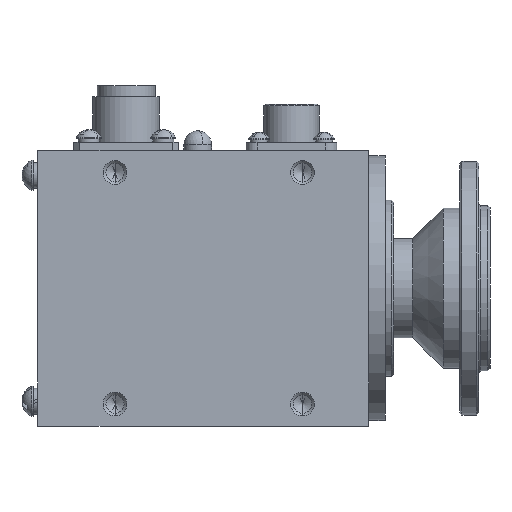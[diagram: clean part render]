
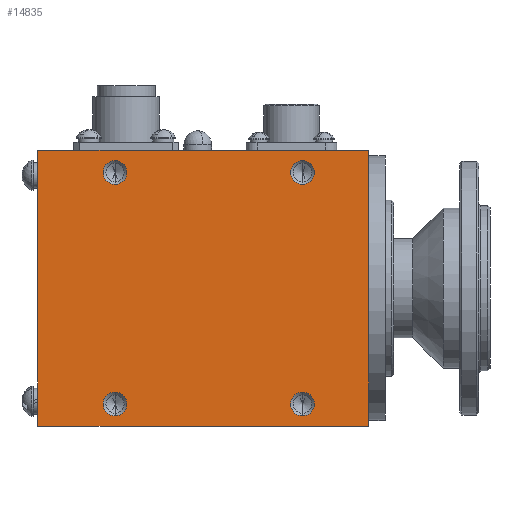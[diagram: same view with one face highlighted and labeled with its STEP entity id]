
A CAD part, front view. The second image highlights one B-rep face of the part: STEP entity #14835.
In plain terms, the highlighted planar face has unit normal (0, -1, 0).
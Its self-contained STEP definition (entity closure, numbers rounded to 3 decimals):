
#130 = AXIS2_PLACEMENT_3D ( 'NONE', #15915, #7919, #10636 ) ;
#203 = CARTESIAN_POINT ( 'NONE',  ( -30., 0., 25. ) ) ;
#305 = DIRECTION ( 'NONE',  ( 0., 0., -1. ) ) ;
#350 = DIRECTION ( 'NONE',  ( 0., -1., 0. ) ) ;
#357 = ORIENTED_EDGE ( 'NONE', *, *, #8063, .F. ) ;
#424 = EDGE_CURVE ( 'NONE', #12074, #891, #3516, .T. ) ;
#455 = EDGE_CURVE ( 'NONE', #13452, #13068, #10792, .T. ) ;
#480 = DIRECTION ( 'NONE',  ( 0., 0., -1. ) ) ;
#631 = AXIS2_PLACEMENT_3D ( 'NONE', #14114, #3398, #8851 ) ;
#771 = LINE ( 'NONE', #14200, #11973 ) ;
#788 = DIRECTION ( 'NONE',  ( 0., 0., 1. ) ) ;
#891 = VERTEX_POINT ( 'NONE', #15097 ) ;
#926 = DIRECTION ( 'NONE',  ( 0., -1., 0. ) ) ;
#1252 = ORIENTED_EDGE ( 'NONE', *, *, #6999, .F. ) ;
#1285 = EDGE_CURVE ( 'NONE', #891, #12074, #16444, .T. ) ;
#1371 = EDGE_LOOP ( 'NONE', ( #6468, #10689 ) ) ;
#1563 = CARTESIAN_POINT ( 'NONE',  ( 30., 0., 25. ) ) ;
#2066 = EDGE_LOOP ( 'NONE', ( #15664, #7316 ) ) ;
#2223 = FACE_OUTER_BOUND ( 'NONE', #5368, .T. ) ;
#2308 = FACE_BOUND ( 'NONE', #1371, .T. ) ;
#2528 = EDGE_CURVE ( 'NONE', #11532, #14533, #12237, .T. ) ;
#2873 = ORIENTED_EDGE ( 'NONE', *, *, #14352, .F. ) ;
#2932 = CARTESIAN_POINT ( 'NONE',  ( 30., 0., 25. ) ) ;
#2970 = AXIS2_PLACEMENT_3D ( 'NONE', #8132, #5829, #480 ) ;
#3168 = AXIS2_PLACEMENT_3D ( 'NONE', #9088, #11777, #13350 ) ;
#3230 = LINE ( 'NONE', #16850, #15550 ) ;
#3275 = AXIS2_PLACEMENT_3D ( 'NONE', #13522, #8265, #12382 ) ;
#3366 = VERTEX_POINT ( 'NONE', #11391 ) ;
#3398 = DIRECTION ( 'NONE',  ( 0., -1., 0. ) ) ;
#3516 = CIRCLE ( 'NONE', #130, 2.15 ) ;
#3728 = FACE_BOUND ( 'NONE', #11824, .T. ) ;
#3756 = CARTESIAN_POINT ( 'NONE',  ( 18., 0., -21. ) ) ;
#3792 = ORIENTED_EDGE ( 'NONE', *, *, #14085, .F. ) ;
#3889 = CARTESIAN_POINT ( 'NONE',  ( 0., 0., 0. ) ) ;
#3995 = LINE ( 'NONE', #203, #17075 ) ;
#4213 = CARTESIAN_POINT ( 'NONE',  ( -16., 0., -21. ) ) ;
#4796 = CARTESIAN_POINT ( 'NONE',  ( -16., 0., -23.15 ) ) ;
#5093 = EDGE_CURVE ( 'NONE', #12544, #11532, #3995, .T. ) ;
#5226 = CARTESIAN_POINT ( 'NONE',  ( 30., 0., -25. ) ) ;
#5368 = EDGE_LOOP ( 'NONE', ( #14390, #5999, #9305, #2873 ) ) ;
#5560 = DIRECTION ( 'NONE',  ( 1., 0., 0. ) ) ;
#5829 = DIRECTION ( 'NONE',  ( 0., -1., 0. ) ) ;
#5849 = DIRECTION ( 'NONE',  ( -1., 0., 0. ) ) ;
#5937 = CARTESIAN_POINT ( 'NONE',  ( -16., 0., 18.85 ) ) ;
#5999 = ORIENTED_EDGE ( 'NONE', *, *, #5093, .F. ) ;
#6221 = CIRCLE ( 'NONE', #631, 2.15 ) ;
#6269 = DIRECTION ( 'NONE',  ( 0., 0., -1. ) ) ;
#6468 = ORIENTED_EDGE ( 'NONE', *, *, #1285, .F. ) ;
#6657 = CIRCLE ( 'NONE', #8915, 2.15 ) ;
#6999 = EDGE_CURVE ( 'NONE', #11941, #12181, #10837, .T. ) ;
#7316 = ORIENTED_EDGE ( 'NONE', *, *, #455, .F. ) ;
#7350 = VERTEX_POINT ( 'NONE', #12186 ) ;
#7536 = AXIS2_PLACEMENT_3D ( 'NONE', #3889, #926, #6269 ) ;
#7653 = EDGE_CURVE ( 'NONE', #15048, #3366, #6657, .T. ) ;
#7919 = DIRECTION ( 'NONE',  ( 0., -1., 0. ) ) ;
#7996 = AXIS2_PLACEMENT_3D ( 'NONE', #4213, #350, #11063 ) ;
#8063 = EDGE_CURVE ( 'NONE', #3366, #15048, #10743, .T. ) ;
#8132 = CARTESIAN_POINT ( 'NONE',  ( 18., 0., 21. ) ) ;
#8265 = DIRECTION ( 'NONE',  ( 0., -1., 0. ) ) ;
#8768 = EDGE_CURVE ( 'NONE', #7350, #12544, #3230, .T. ) ;
#8851 = DIRECTION ( 'NONE',  ( 0., 0., -1. ) ) ;
#8915 = AXIS2_PLACEMENT_3D ( 'NONE', #3756, #17190, #9120 ) ;
#9088 = CARTESIAN_POINT ( 'NONE',  ( 18., 0., -21. ) ) ;
#9120 = DIRECTION ( 'NONE',  ( 0., 0., -1. ) ) ;
#9125 = CARTESIAN_POINT ( 'NONE',  ( -16., 0., 21. ) ) ;
#9305 = ORIENTED_EDGE ( 'NONE', *, *, #8768, .F. ) ;
#9681 = CARTESIAN_POINT ( 'NONE',  ( -16., 0., 23.15 ) ) ;
#9940 = EDGE_CURVE ( 'NONE', #13068, #13452, #6221, .T. ) ;
#10636 = DIRECTION ( 'NONE',  ( 0., 0., -1. ) ) ;
#10689 = ORIENTED_EDGE ( 'NONE', *, *, #424, .F. ) ;
#10743 = CIRCLE ( 'NONE', #3168, 2.15 ) ;
#10792 = CIRCLE ( 'NONE', #7996, 2.15 ) ;
#10837 = CIRCLE ( 'NONE', #3275, 2.15 ) ;
#11063 = DIRECTION ( 'NONE',  ( 0., 0., -1. ) ) ;
#11391 = CARTESIAN_POINT ( 'NONE',  ( 18., 0., -18.85 ) ) ;
#11532 = VERTEX_POINT ( 'NONE', #1563 ) ;
#11777 = DIRECTION ( 'NONE',  ( 0., -1., 0. ) ) ;
#11824 = EDGE_LOOP ( 'NONE', ( #1252, #3792 ) ) ;
#11941 = VERTEX_POINT ( 'NONE', #5937 ) ;
#11973 = VECTOR ( 'NONE', #5849, 1000. ) ;
#12074 = VERTEX_POINT ( 'NONE', #17073 ) ;
#12181 = VERTEX_POINT ( 'NONE', #9681 ) ;
#12186 = CARTESIAN_POINT ( 'NONE',  ( -30., 0., -25. ) ) ;
#12237 = LINE ( 'NONE', #2932, #12656 ) ;
#12382 = DIRECTION ( 'NONE',  ( 0., 0., -1. ) ) ;
#12422 = ORIENTED_EDGE ( 'NONE', *, *, #7653, .F. ) ;
#12544 = VERTEX_POINT ( 'NONE', #14757 ) ;
#12656 = VECTOR ( 'NONE', #305, 1000. ) ;
#12938 = PLANE ( 'NONE',  #7536 ) ;
#13068 = VERTEX_POINT ( 'NONE', #4796 ) ;
#13350 = DIRECTION ( 'NONE',  ( 0., 0., -1. ) ) ;
#13397 = DIRECTION ( 'NONE',  ( 0., 0., -1. ) ) ;
#13452 = VERTEX_POINT ( 'NONE', #16265 ) ;
#13522 = CARTESIAN_POINT ( 'NONE',  ( -16., 0., 21. ) ) ;
#13805 = CARTESIAN_POINT ( 'NONE',  ( 18., 0., -23.15 ) ) ;
#14085 = EDGE_CURVE ( 'NONE', #12181, #11941, #17315, .T. ) ;
#14114 = CARTESIAN_POINT ( 'NONE',  ( -16., 0., -21. ) ) ;
#14200 = CARTESIAN_POINT ( 'NONE',  ( -30., 0., -25. ) ) ;
#14352 = EDGE_CURVE ( 'NONE', #14533, #7350, #771, .T. ) ;
#14390 = ORIENTED_EDGE ( 'NONE', *, *, #2528, .F. ) ;
#14533 = VERTEX_POINT ( 'NONE', #5226 ) ;
#14757 = CARTESIAN_POINT ( 'NONE',  ( -30., 0., 25. ) ) ;
#14835 = ADVANCED_FACE ( 'NONE', ( #2223, #3728, #2308, #17245, #15593 ), #12938, .T. ) ;
#15048 = VERTEX_POINT ( 'NONE', #13805 ) ;
#15097 = CARTESIAN_POINT ( 'NONE',  ( 18., 0., 18.85 ) ) ;
#15366 = AXIS2_PLACEMENT_3D ( 'NONE', #9125, #17114, #13397 ) ;
#15550 = VECTOR ( 'NONE', #788, 1000. ) ;
#15593 = FACE_BOUND ( 'NONE', #2066, .T. ) ;
#15664 = ORIENTED_EDGE ( 'NONE', *, *, #9940, .F. ) ;
#15915 = CARTESIAN_POINT ( 'NONE',  ( 18., 0., 21. ) ) ;
#16265 = CARTESIAN_POINT ( 'NONE',  ( -16., 0., -18.85 ) ) ;
#16444 = CIRCLE ( 'NONE', #2970, 2.15 ) ;
#16850 = CARTESIAN_POINT ( 'NONE',  ( -30., 0., -25. ) ) ;
#17073 = CARTESIAN_POINT ( 'NONE',  ( 18., 0., 23.15 ) ) ;
#17075 = VECTOR ( 'NONE', #5560, 1000. ) ;
#17114 = DIRECTION ( 'NONE',  ( 0., -1., 0. ) ) ;
#17128 = EDGE_LOOP ( 'NONE', ( #12422, #357 ) ) ;
#17190 = DIRECTION ( 'NONE',  ( 0., -1., 0. ) ) ;
#17245 = FACE_BOUND ( 'NONE', #17128, .T. ) ;
#17315 = CIRCLE ( 'NONE', #15366, 2.15 ) ;
